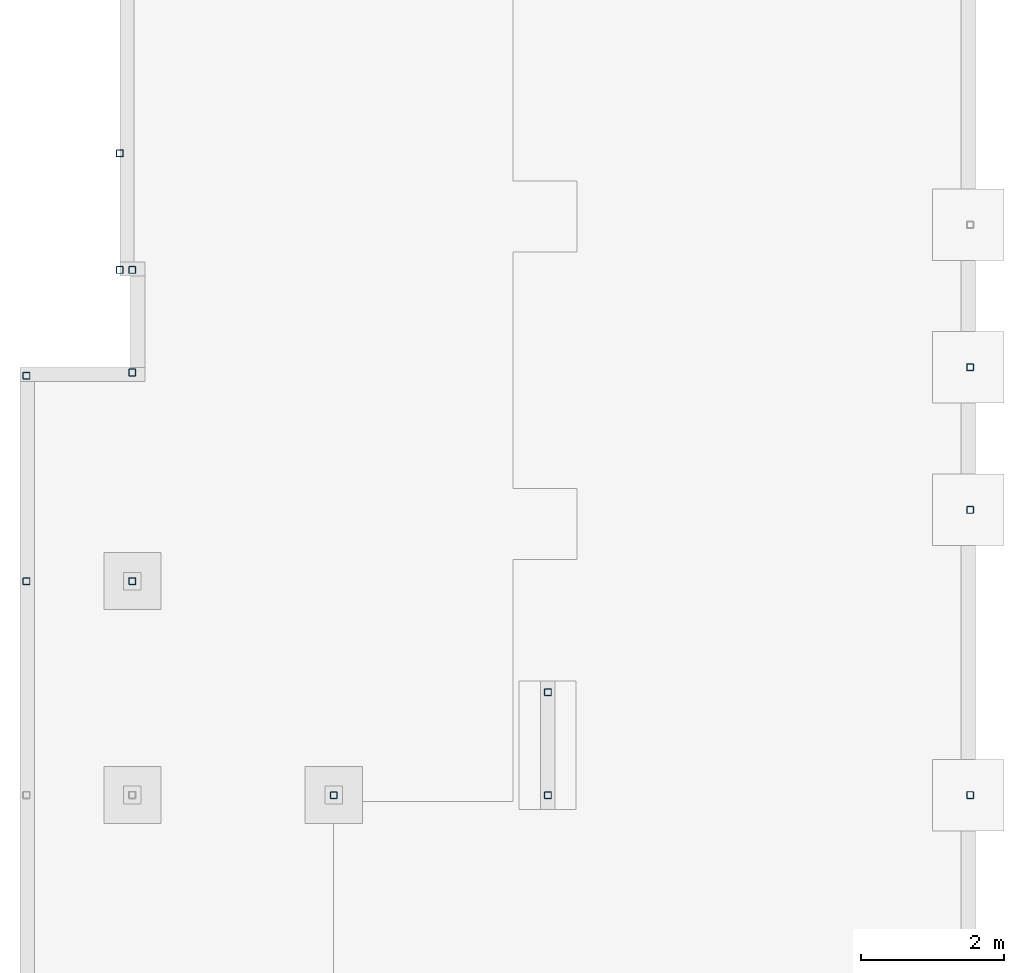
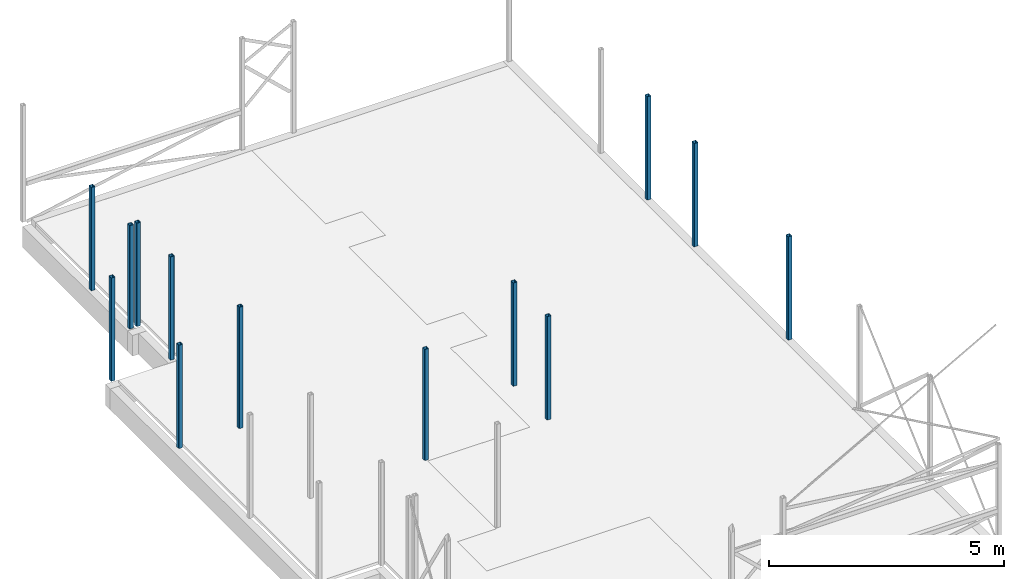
# One storey, part 2 of 5: 13 columns.
"""IFC2X3 building model written with IfcOpenShell, lengths in millimetres."""

from ifc_helpers import new_model, entity, si_unit, converted_unit, derived_unit, direction, frame, frame_2d, origin, place, context, subcontext, project, spatial, polyline, circle_curve, parameter, trimmed, segment, composite_curve, outline, extrude, source, transform, mapped, material, type_object, type_shapes, element, save


model = new_model("IFC2X3")

# Units and contexts
model_context = context("Model", 3, precision=0.01, world=origin(), true_north=direction((6.12303176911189e-17, 1.0)))
body_context = subcontext(model_context, "Body", "Model", "MODEL_VIEW")
ifc_project = project(units=[si_unit("LENGTHUNIT", "METRE", prefix="MILLI"), si_unit("AREAUNIT", "SQUARE_METRE"), si_unit("VOLUMEUNIT", "CUBIC_METRE"), converted_unit("PLANEANGLEUNIT", "DEGREE", entity("IfcRatioMeasure", 0.0174532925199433), si_unit("PLANEANGLEUNIT", "RADIAN"), dimensions=[0, 0, 0, 0, 0, 0, 0]), si_unit("MASSUNIT", "GRAM", prefix="KILO"), derived_unit("MASSDENSITYUNIT", [(si_unit("MASSUNIT", "GRAM", prefix="KILO"), 1), (si_unit("LENGTHUNIT", "METRE"), -3)]), si_unit("TIMEUNIT", "SECOND"), si_unit("FREQUENCYUNIT", "HERTZ"), si_unit("THERMODYNAMICTEMPERATUREUNIT", "DEGREE_CELSIUS"), derived_unit("THERMALTRANSMITTANCEUNIT", [(si_unit("MASSUNIT", "GRAM", prefix="KILO"), 1), (si_unit("THERMODYNAMICTEMPERATUREUNIT", "KELVIN"), -1), (si_unit("TIMEUNIT", "SECOND"), -3)]), derived_unit("VOLUMETRICFLOWRATEUNIT", [(si_unit("LENGTHUNIT", "METRE"), 3), (si_unit("TIMEUNIT", "SECOND"), -1)]), si_unit("ELECTRICCURRENTUNIT", "AMPERE"), si_unit("ELECTRICVOLTAGEUNIT", "VOLT"), si_unit("POWERUNIT", "WATT"), si_unit("FORCEUNIT", "NEWTON", prefix="KILO"), si_unit("ILLUMINANCEUNIT", "LUX"), si_unit("LUMINOUSFLUXUNIT", "LUMEN"), si_unit("LUMINOUSINTENSITYUNIT", "CANDELA"), derived_unit("USERDEFINED", [(si_unit("MASSUNIT", "GRAM", prefix="KILO"), -1), (si_unit("LENGTHUNIT", "METRE"), -2), (si_unit("TIMEUNIT", "SECOND"), 3), (si_unit("LUMINOUSFLUXUNIT", "LUMEN"), 1)]), derived_unit("LINEARVELOCITYUNIT", [(si_unit("LENGTHUNIT", "METRE"), 1), (si_unit("TIMEUNIT", "SECOND"), -1)]), si_unit("PRESSUREUNIT", "PASCAL"), derived_unit("USERDEFINED", [(si_unit("LENGTHUNIT", "METRE"), -2), (si_unit("MASSUNIT", "GRAM", prefix="KILO"), 1), (si_unit("TIMEUNIT", "SECOND"), -2)])], contexts=[model_context])

# Site, building, storey
site_placement = place(None, frame((0.0, 0.0, 101000.0)))
site = spatial("IfcSite", under=ifc_project, at=site_placement, Name="Default", CompositionType="ELEMENT")
building_placement = place(site_placement, origin())
building = spatial("IfcBuilding", under=site, at=building_placement, CompositionType="ELEMENT")
storey_placement = place(building_placement, origin())
storey = spatial("IfcBuildingStorey", under=building, at=storey_placement, Name="01", CompositionType="ELEMENT", Elevation=8.9295595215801e-10)

# Columns
ifc_material = material(Name="S355")
column_type_1 = type_object("IfcColumnType", Name="HUP 100x100x6.3", PredefinedType="COLUMN", material=ifc_material)
shared_shape_1 = source(origin(), body_context, "Body", "SweptSolid", [
    extrude(outline(composite_curve([segment(polyline([(-37.4000000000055, -50.0), (37.4000000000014, -50.0)]), True, "CONTINUOUS"), segment(trimmed(circle_curve(frame_2d((37.4000000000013, -37.3999999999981), x_axis=(-1.0, 0.0)), 12.6000000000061), [parameter(90.0000000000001)], [parameter(180.0)], True, "PARAMETER"), True, "CONTINUOUS"), segment(polyline([(50.0, -37.3999999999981), (50.0, 37.4000000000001)]), True, "CONTINUOUS"), segment(trimmed(circle_curve(frame_2d((37.4000000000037, 37.4000000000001), x_axis=(-1.0, 0.0)), 12.6000000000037), [parameter(180.0)], [parameter(270.0)], True, "PARAMETER"), True, "CONTINUOUS"), segment(polyline([(37.4000000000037, 50.0), (-37.4000000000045, 50.0)]), True, "CONTINUOUS"), segment(trimmed(circle_curve(frame_2d((-37.4000000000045, 37.4000000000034), x_axis=(-1.0, 0.0)), 12.6000000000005), [parameter(270.0)], [parameter(360.0)], True, "PARAMETER"), True, "CONTINUOUS"), segment(polyline([(-50.0, 37.4000000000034), (-50.0, -37.4000000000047)]), True, "CONTINUOUS"), segment(trimmed(circle_curve(frame_2d((-37.4000000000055, -37.4000000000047), x_axis=(-1.0, 0.0)), 12.5999999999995), [parameter(360.0)], [parameter(89.9999999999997)], True, "PARAMETER"), True, "CONTINUOUS")], self_intersect=False), holes=[composite_curve([segment(trimmed(circle_curve(frame_2d((-37.4000000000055, -37.4000000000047), x_axis=(-1.0, 0.0)), 6.2999999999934), [parameter(0.0)], [parameter(90.0)], True, "PARAMETER"), False, "CONTINUOUS"), segment(polyline([(-43.6999999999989, -37.4000000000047), (-43.6999999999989, 37.4000000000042)]), True, "CONTINUOUS"), segment(trimmed(circle_curve(frame_2d((-37.4000000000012, 37.4000000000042), x_axis=(-1.0, 0.0)), 6.29999999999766), [parameter(270.0)], [parameter(360.0)], True, "PARAMETER"), False, "CONTINUOUS"), segment(polyline([(-37.4000000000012, 43.7000000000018), (37.3999999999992, 43.7000000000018)]), True, "CONTINUOUS"), segment(trimmed(circle_curve(frame_2d((37.3999999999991, 37.3999999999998), x_axis=(-1.0, 0.0)), 6.30000000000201), [parameter(180.0)], [parameter(270.0)], True, "PARAMETER"), False, "CONTINUOUS"), segment(polyline([(43.7000000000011, 37.3999999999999), (43.7000000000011, -37.3999999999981)]), True, "CONTINUOUS"), segment(trimmed(circle_curve(frame_2d((37.4000000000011, -37.3999999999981), x_axis=(-1.0, 0.0)), 6.30000000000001), [parameter(90.0000000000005)], [parameter(180.0)], True, "PARAMETER"), False, "CONTINUOUS"), segment(polyline([(37.4000000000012, -43.6999999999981), (-37.4000000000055, -43.6999999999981)]), True, "CONTINUOUS")], self_intersect=False)]), frame((0.0, 0.0, 0.0), z_axis=(0.0, 0.0, 1.0), x_axis=(-1.0, 0.0, 0.0)), (0.0, 0.0, 1.0), 2684.99999999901),
])
type_shapes(column_type_1, [shared_shape_1])
for number, where, name in (
    (1, (23111.2644969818, 38417.9507529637, 0.0), "Søyle HUP:HUP 100x100x6.3"),
    (2, (23111.2644969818, 36417.9507529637, 0.0), "Søyle HUP:HUP 100x100x6.3"),
    (3, (23111.2644969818, 32417.9507529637, 0.0), "Søyle HUP:HUP 100x100x6.3"),
    (4, (17189.9806741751, 33861.7066341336, 0.0), "Søyle HUP:HUP 100x100x6.3"),
    (5, (17189.9806741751, 32415.9328266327, 0.0), "Søyle HUP:HUP 100x100x6.3"),
    (6, (11186.2644969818, 41417.9507529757, 0.0), "Søyle HUP:HUP 100x100x6.3"),
    (7, (11186.2644969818, 39783.283149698, 0.0), "Søyle HUP:HUP 100x100x6.3"),
    (8, (11360.9797660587, 39783.283149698, 0.0), "Søyle HUP:HUP 100x100x6.3"),
    (9, (11360.9797660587, 38344.9436846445, 0.0), "Søyle HUP:HUP 100x100x6.3"),
    (10, (9875.97976606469, 38299.2507529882, 0.0), "Søyle HUP:HUP 100x100x6.3"),
    (11, (9875.97976606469, 35417.9507529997, 0.0), "Søyle HUP:HUP 100x100x6.3"),
):
    element("IfcColumn", number, at=place(storey_placement, frame(where)), inside=storey, type_object=column_type_1, material=ifc_material, Name=name, ObjectType="HUP 100x100x6.3", context=body_context, shape_type="MappedRepresentation", body=[
        mapped(shared_shape_1, transform((0.0, 0.0, 0.0), scale=1.0)),
    ])
column_type_2 = type_object("IfcColumnType", Name="HUP 100x100x6.3", PredefinedType="COLUMN", material=ifc_material)
shared_shape_2 = source(origin(), body_context, "Body", "SweptSolid", [
    extrude(outline(composite_curve([segment(polyline([(-37.4000000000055, -50.0), (37.4000000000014, -50.0)]), True, "CONTINUOUS"), segment(trimmed(circle_curve(frame_2d((37.4000000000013, -37.3999999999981), x_axis=(-1.0, 0.0)), 12.6000000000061), [parameter(90.0000000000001)], [parameter(180.0)], True, "PARAMETER"), True, "CONTINUOUS"), segment(polyline([(50.0, -37.3999999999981), (50.0, 37.4000000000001)]), True, "CONTINUOUS"), segment(trimmed(circle_curve(frame_2d((37.4000000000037, 37.4000000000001), x_axis=(-1.0, 0.0)), 12.6000000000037), [parameter(180.0)], [parameter(270.0)], True, "PARAMETER"), True, "CONTINUOUS"), segment(polyline([(37.4000000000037, 50.0), (-37.4000000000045, 50.0)]), True, "CONTINUOUS"), segment(trimmed(circle_curve(frame_2d((-37.4000000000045, 37.4000000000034), x_axis=(-1.0, 0.0)), 12.6000000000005), [parameter(270.0)], [parameter(360.0)], True, "PARAMETER"), True, "CONTINUOUS"), segment(polyline([(-50.0, 37.4000000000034), (-50.0, -37.4000000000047)]), True, "CONTINUOUS"), segment(trimmed(circle_curve(frame_2d((-37.4000000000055, -37.4000000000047), x_axis=(-1.0, 0.0)), 12.5999999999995), [parameter(360.0)], [parameter(89.9999999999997)], True, "PARAMETER"), True, "CONTINUOUS")], self_intersect=False), holes=[composite_curve([segment(trimmed(circle_curve(frame_2d((-37.4000000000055, -37.4000000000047), x_axis=(-1.0, 0.0)), 6.2999999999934), [parameter(0.0)], [parameter(90.0)], True, "PARAMETER"), False, "CONTINUOUS"), segment(polyline([(-43.6999999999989, -37.4000000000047), (-43.6999999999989, 37.4000000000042)]), True, "CONTINUOUS"), segment(trimmed(circle_curve(frame_2d((-37.4000000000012, 37.4000000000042), x_axis=(-1.0, 0.0)), 6.29999999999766), [parameter(270.0)], [parameter(360.0)], True, "PARAMETER"), False, "CONTINUOUS"), segment(polyline([(-37.4000000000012, 43.7000000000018), (37.3999999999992, 43.7000000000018)]), True, "CONTINUOUS"), segment(trimmed(circle_curve(frame_2d((37.3999999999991, 37.3999999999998), x_axis=(-1.0, 0.0)), 6.30000000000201), [parameter(180.0)], [parameter(270.0)], True, "PARAMETER"), False, "CONTINUOUS"), segment(polyline([(43.7000000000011, 37.3999999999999), (43.7000000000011, -37.3999999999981)]), True, "CONTINUOUS"), segment(trimmed(circle_curve(frame_2d((37.4000000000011, -37.3999999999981), x_axis=(-1.0, 0.0)), 6.30000000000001), [parameter(90.0000000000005)], [parameter(180.0)], True, "PARAMETER"), False, "CONTINUOUS"), segment(polyline([(37.4000000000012, -43.6999999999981), (-37.4000000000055, -43.6999999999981)]), True, "CONTINUOUS")], self_intersect=False)]), frame((0.0, 0.0, 0.0), z_axis=(0.0, 0.0, 1.0), x_axis=(-1.0, 0.0, 0.0)), (0.0, 0.0, 1.0), 3149.99999999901),
])
type_shapes(column_type_2, [shared_shape_2])
column_1_placement = place(storey_placement, frame((11360.9797660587, 35417.9507529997, 0.0)))
element("IfcColumn", 12, at=column_1_placement, inside=storey, type_object=column_type_2, material=ifc_material, Name="Søyle HUP:HUP 100x100x6.3", ObjectType="HUP 100x100x6.3", context=body_context, shape_type="MappedRepresentation", body=[
    mapped(shared_shape_2, transform((0.0, 0.0, 0.0), scale=1.0)),
])
column_type_3 = type_object("IfcColumnType", Name="HUP 100x100x6.3", PredefinedType="COLUMN", material=ifc_material)
shared_shape_3 = source(origin(), body_context, "Body", "SweptSolid", [
    extrude(outline(composite_curve([segment(polyline([(-37.4000000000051, -50.0), (37.4000000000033, -50.0)]), True, "CONTINUOUS"), segment(trimmed(circle_curve(frame_2d((37.4000000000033, -37.3999999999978), x_axis=(-1.0, 0.0)), 12.6000000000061), [parameter(90.0000000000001)], [parameter(180.0)], True, "PARAMETER"), True, "CONTINUOUS"), segment(polyline([(50.0, -37.4000000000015), (50.0, 37.3999999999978)]), True, "CONTINUOUS"), segment(trimmed(circle_curve(frame_2d((37.4000000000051, 37.3999999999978), x_axis=(-1.0, 0.0)), 12.6000000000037), [parameter(180.0)], [parameter(270.0)], True, "PARAMETER"), True, "CONTINUOUS"), segment(polyline([(37.4000000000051, 50.0), (-37.4000000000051, 50.0)]), True, "CONTINUOUS"), segment(trimmed(circle_curve(frame_2d((-37.4000000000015, 37.4000000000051), x_axis=(-1.0, 0.0)), 12.6000000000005), [parameter(270.0)], [parameter(360.0)], True, "PARAMETER"), True, "CONTINUOUS"), segment(polyline([(-50.0, 37.3999999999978), (-50.0, -37.4000000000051)]), True, "CONTINUOUS"), segment(trimmed(circle_curve(frame_2d((-37.4000000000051, -37.4000000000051), x_axis=(-1.0, 0.0)), 12.5999999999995), [parameter(360.0)], [parameter(89.9999999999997)], True, "PARAMETER"), True, "CONTINUOUS")], self_intersect=False), holes=[composite_curve([segment(trimmed(circle_curve(frame_2d((-37.4000000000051, -37.4000000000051), x_axis=(-1.0, 0.0)), 6.2999999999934), [parameter(0.0)], [parameter(90.0)], True, "PARAMETER"), False, "CONTINUOUS"), segment(polyline([(-43.6999999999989, -37.4000000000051), (-43.6999999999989, 37.4000000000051)]), True, "CONTINUOUS"), segment(trimmed(circle_curve(frame_2d((-37.3999999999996, 37.4000000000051), x_axis=(-1.0, 0.0)), 6.29999999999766), [parameter(270.0)], [parameter(360.0)], True, "PARAMETER"), False, "CONTINUOUS"), segment(polyline([(-37.3999999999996, 43.6999999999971), (37.3999999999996, 43.6999999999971)]), True, "CONTINUOUS"), segment(trimmed(circle_curve(frame_2d((37.3999999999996, 37.3999999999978), x_axis=(-1.0, 0.0)), 6.30000000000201), [parameter(180.0)], [parameter(270.0)], True, "PARAMETER"), False, "CONTINUOUS"), segment(polyline([(43.7000000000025, 37.3999999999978), (43.7000000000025, -37.4000000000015)]), True, "CONTINUOUS"), segment(trimmed(circle_curve(frame_2d((37.4000000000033, -37.3999999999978), x_axis=(-1.0, 0.0)), 6.30000000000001), [parameter(90.0000000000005)], [parameter(180.0)], True, "PARAMETER"), False, "CONTINUOUS"), segment(polyline([(37.4000000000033, -43.7000000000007), (-37.4000000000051, -43.7000000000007)]), True, "CONTINUOUS")], self_intersect=False)]), frame((14186.2644969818, 32415.9328266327, 0.0), z_axis=(0.0, 0.0, 1.0), x_axis=(-1.0, 0.0, 0.0)), (0.0, 0.0, 1.0), 2884.99999999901),
])
type_shapes(column_type_3, [shared_shape_3])
column_2_placement = place(storey_placement, origin())
element("IfcColumn", 13, at=column_2_placement, inside=storey, type_object=column_type_3, material=ifc_material, Name="Søyle HUP:HUP 100x100x6.3", ObjectType="HUP 100x100x6.3", context=body_context, shape_type="MappedRepresentation", body=[
    mapped(shared_shape_3, transform((0.0, 0.0, 0.0), scale=1.0)),
])

save(model, "model.ifc")
